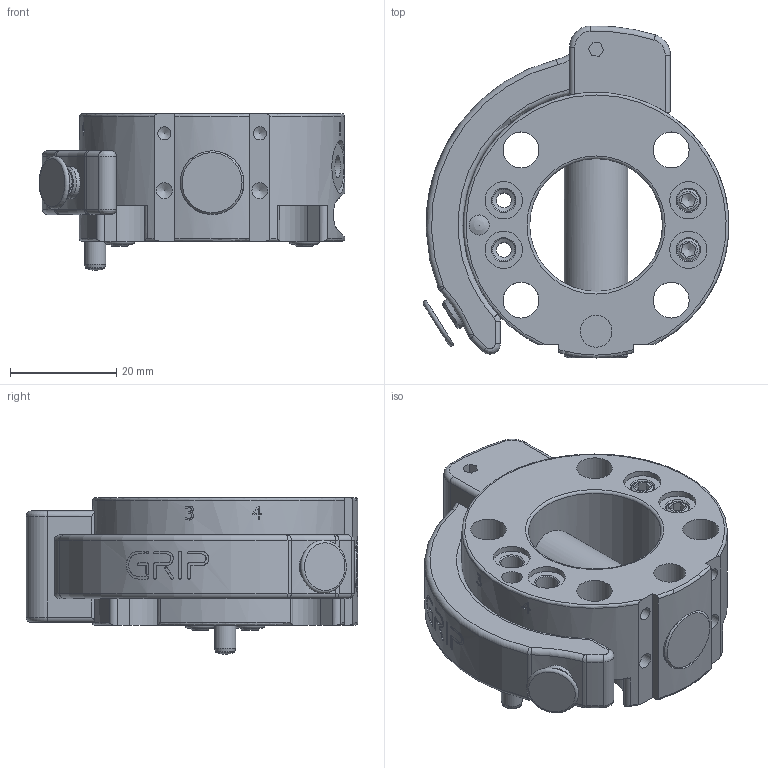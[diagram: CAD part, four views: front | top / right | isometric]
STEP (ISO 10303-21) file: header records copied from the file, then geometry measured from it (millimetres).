
FILE_DESCRIPTION(/* description */ (''),/* implementation_level */ '2;1');
FILE_NAME(/* name */ 'G-SHS050-O-K040.stp',/* time_stamp */ '2024-05-29T08:52:49+02:00',/* author */ ('ysplieth'),/* organization */ (''),/* preprocessor_version */ 'ST-DEVELOPER v20',/* originating_system */ 'Autodesk Inventor 2024',/* authorisation */ '');
FILE_SCHEMA (('AUTOMOTIVE_DESIGN { 1 0 10303 214 3 1 1 }'));
Length unit declared in the file: millimetre
Products named in the file (1): Bauteil6
Bounding box: 57.56 x 62.48 x 29.5 mm (x, y, z)
Volume: 40915.2 mm3; surface area: 16622.7 mm2
Topology: 1 solids, 11 shells, 416 faces, 1051 edges, 683 vertices
Faces by surface type: plane 152, cylinder 136, cone 47, torus 40, bspline 39, sphere 2
Full cylindrical faces by diameter (mm): 0.504 x1, 2.5 x4, 2.8 x6, 3 x4, 3.1 x2, 3.5 x1, 3.8 x1, 4 x3, 4.2 x10, 6 x3, 6.5 x8, 6.75 x4, 7 x4, 12 x2, 25 x1
Entity records: 15455 total; most frequent: CARTESIAN_POINT 5056, ORIENTED_EDGE 2076, DIRECTION 1992, EDGE_CURVE 1038, AXIS2_PLACEMENT_3D 777, VERTEX_POINT 683, EDGE_LOOP 487, LINE 438
